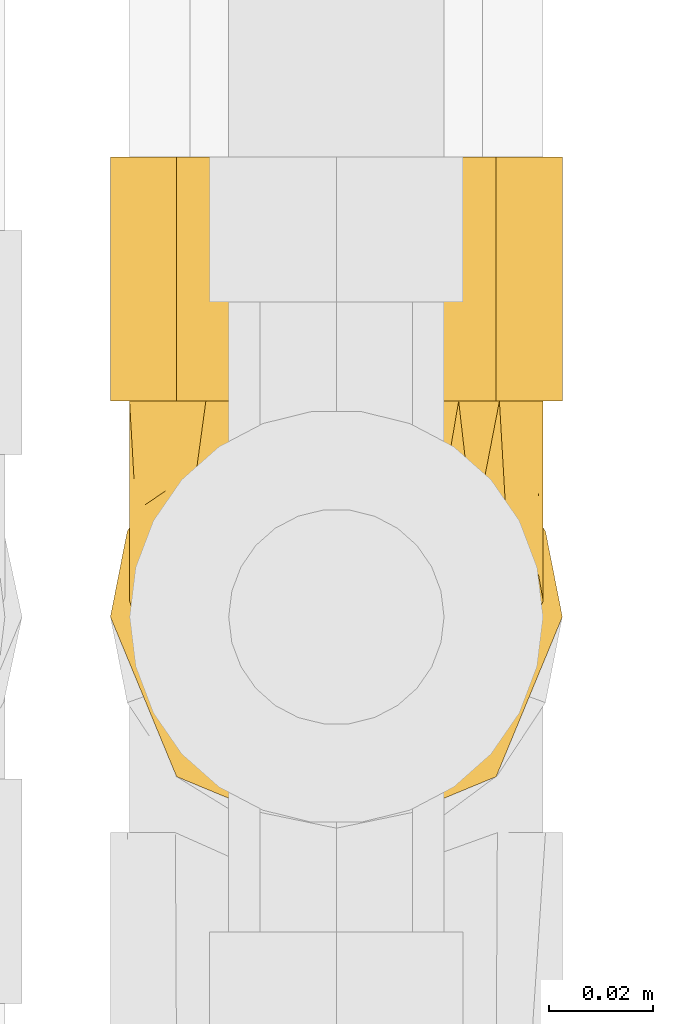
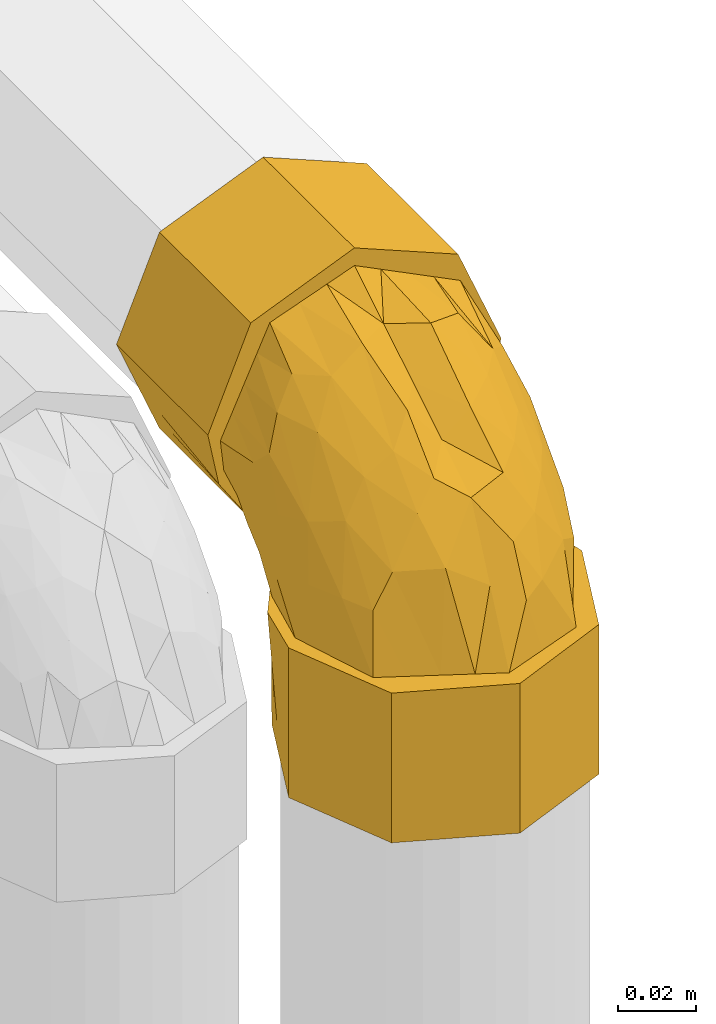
# One storey, part 238 of 652: 1 covering.
"""IFC2X3 building model written with IfcOpenShell, lengths in millimetres."""

from ifc_helpers import new_model, entity, si_unit, converted_unit, direction, frame, origin, place, context, subcontext, project, spatial, faceted_brep, material, type_object, element, save


model = new_model("IFC2X3")

# Units and contexts
model_context = context("Model", 3, precision=0.01, world=frame((0.0, 0.0, 308426.39999999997)), true_north=direction((6.123233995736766e-17, 1.0)))
plan_context = context("Plan", 3, precision=0.01, world=frame((0.0, 0.0, 308426.39999999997)), true_north=direction((6.123233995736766e-17, 1.0)))
body_context = subcontext(model_context, "Body", "Model", "MODEL_VIEW")
ifc_project = project(units=[si_unit("LENGTHUNIT", "METRE", prefix="MILLI"), si_unit("AREAUNIT", "SQUARE_METRE"), si_unit("VOLUMEUNIT", "CUBIC_METRE"), converted_unit("PLANEANGLEUNIT", "DEGREE", entity("IfcPlaneAngleMeasure", 0.017453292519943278), si_unit("PLANEANGLEUNIT", "RADIAN"), dimensions=[0, 0, 0, 0, 0, 0, 0])], contexts=[model_context, plan_context])

# Site, building, storey
site_placement = place(None, origin())
site = spatial("IfcSite", under=ifc_project, at=site_placement, Name="Default", CompositionType="ELEMENT")
building_placement = place(site_placement, origin())
building = spatial("IfcBuilding", under=site, at=building_placement, CompositionType="ELEMENT")
storey_placement = place(building_placement, frame((0.0, 0.0, 1730.6999999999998)))
storey = spatial("IfcBuildingStorey", under=building, at=storey_placement, Name="EG_Produktion_FFB", CompositionType="ELEMENT", Elevation=1730.6999999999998)

# Covering
ifc_material = material(Name="Dämmung - Armaflex-Schlauch")
covering_type = type_object("IfcCoveringType", Name="Rohrdämmung außen:Armaflex-Schlauch", PredefinedType="INSULATION")
covering_placement = place(storey_placement, frame((76935.09072776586, 51593.11908173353, 3811.882249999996)))
element("IfcCovering", 1, at=covering_placement, inside=storey, type_object=covering_type, material=ifc_material, Name="Rohrdämmung außen:Armaflex-Schlauch", ObjectType="Rohrdämmung außen:Armaflex-Schlauch", PredefinedType="INSULATION", context=body_context, shape_type="Brep", body=[
    faceted_brep([(1.5952722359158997, 86.27477223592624, 88.11775000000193), (3.21402764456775, 86.27477223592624, 79.90225228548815), (4.832783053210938, 86.27477223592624, 71.68675457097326), (9.44499511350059, 86.27477223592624, 64.70149015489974), (14.057207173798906, 86.27477223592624, 57.716225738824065), (10.189917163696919, 86.27477223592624, 66.55955447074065), (6.322627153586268, 86.27477223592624, 75.40288320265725), (5.271772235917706, 86.27477223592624, 85.04966346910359), (8.801210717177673, 86.27477223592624, 92.72698145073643), (12.330649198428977, 86.27477223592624, 100.40429943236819), (16.11426416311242, 86.27477223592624, 108.63450810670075), (19.897879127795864, 86.27477223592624, 116.86471678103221), (28.598847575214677, 86.27477223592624, 120.01964159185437), (36.75405990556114, 86.27477223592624, 122.97667814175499), (44.909272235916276, 86.27477223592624, 125.93371469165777), (52.722214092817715, 86.27477223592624, 122.03577136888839), (60.53515594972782, 86.27477223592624, 118.13782804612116), (68.3480978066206, 86.27477223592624, 114.23988472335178), (76.16103966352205, 86.27477223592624, 110.34194140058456), (79.16192692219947, 86.27477223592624, 101.29094031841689), (81.85434957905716, 86.27477223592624, 93.1703018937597), (84.54677223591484, 86.27477223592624, 85.04966346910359), (83.74827741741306, 86.27477223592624, 81.34938260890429), (82.94978259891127, 86.27477223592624, 77.64910174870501), (81.71182968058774, 86.27477223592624, 71.91234130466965), (80.47387676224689, 86.27477223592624, 66.17558086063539), (75.76133729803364, 86.27477223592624, 57.716225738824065), (80.37354935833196, 86.27477223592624, 64.70149015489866), (84.9857614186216, 86.27477223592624, 71.68675457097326), (86.43872402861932, 86.27477223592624, 79.06082167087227), (88.22327223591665, 86.27477223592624, 88.11775000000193), (84.75898186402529, 86.27477223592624, 96.48128679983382), (81.88008379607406, 86.27477223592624, 103.43156156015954), (78.70848957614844, 86.27477223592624, 111.08846734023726), (75.53689535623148, 86.27477223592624, 118.74537312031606), (67.87998957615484, 86.27477223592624, 121.91696734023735), (60.223083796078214, 86.27477223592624, 125.08856156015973), (53.272807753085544, 86.27477223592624, 127.96746015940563), (44.909272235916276, 86.27477223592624, 131.43175000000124), (36.54573552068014, 86.27477223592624, 127.96745966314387), (29.59546067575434, 86.27477223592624, 125.08856156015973), (21.938554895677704, 86.27477223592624, 121.91696734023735), (14.281649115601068, 86.27477223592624, 118.74537312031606), (11.110054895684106, 86.27477223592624, 111.08846734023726), (7.938460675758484, 86.27477223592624, 103.43156156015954), (5.059562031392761, 86.27477223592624, 96.48128540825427), (44.909272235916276, 133.02702223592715, 131.43175000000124), (52.56617801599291, 133.02702223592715, 128.26015578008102), (60.223083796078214, 133.02702223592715, 125.08856156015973), (67.87998957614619, 133.02702223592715, 121.91696734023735), (75.53689535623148, 133.02702223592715, 118.74537312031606), (78.4157932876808, 133.02702223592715, 111.79509868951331), (81.29469121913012, 133.02702223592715, 104.84482425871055), (84.75898172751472, 133.02702223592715, 96.48128712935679), (88.22327223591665, 133.02702223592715, 88.11775000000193), (85.05167801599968, 133.02702223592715, 80.46084421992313), (81.88008379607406, 133.02702223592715, 72.80393843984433), (78.70848957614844, 133.02702223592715, 65.14703265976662), (75.53689535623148, 133.02702223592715, 57.490126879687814), (67.87998957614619, 133.02702223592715, 54.318532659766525), (60.223083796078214, 133.02702223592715, 51.14693843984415), (52.56617801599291, 133.02702223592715, 47.97534421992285), (44.909272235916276, 133.02702223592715, 44.803750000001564), (36.54573690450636, 133.02702223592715, 48.26803976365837), (29.59546067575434, 133.02702223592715, 51.14693843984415), (21.938554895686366, 133.02702223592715, 54.318532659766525), (14.281649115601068, 133.02702223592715, 57.490126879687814), (11.110054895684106, 133.02702223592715, 65.14703265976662), (7.938460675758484, 133.02702223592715, 72.80393843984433), (4.766866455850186, 133.02702223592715, 80.46084421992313), (1.5952722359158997, 133.02702223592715, 88.11775000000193), (4.766866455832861, 133.02702223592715, 95.77465578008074), (7.938460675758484, 133.02702223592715, 103.43156156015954), (11.110054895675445, 133.02702223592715, 111.08846734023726), (14.281649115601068, 133.02702223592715, 118.74537312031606), (21.938554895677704, 133.02702223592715, 121.91696734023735), (29.59546067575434, 133.02702223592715, 125.08856156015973), (37.25236645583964, 133.02702223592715, 128.26015578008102), (58.75537900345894, 92.39161487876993, 47.07645465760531), (54.574402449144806, 92.723085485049, 46.3901877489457), (44.909272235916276, 93.48934344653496, 44.803750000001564), (67.25835815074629, 89.33319355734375, 52.39634019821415), (34.80170281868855, 92.24819953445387, 47.307090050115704), (24.694133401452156, 91.00705562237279, 49.810430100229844), (19.375670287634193, 88.64091392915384, 53.76332791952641), (1.5952722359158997, 44.90927223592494, 46.75224999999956), (5.059562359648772, 36.54573603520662, 46.75224999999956), (8.523852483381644, 28.1821998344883, 46.75224999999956), (11.402750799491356, 21.231924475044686, 46.75224999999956), (14.281649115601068, 14.28164911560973, 46.75224999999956), (21.938554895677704, 11.11005489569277, 46.75224999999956), (29.59546067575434, 7.938460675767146, 46.75224999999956), (36.545736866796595, 5.059562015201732, 46.75224999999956), (44.909272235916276, 1.5952722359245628, 46.75224999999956), (53.27280874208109, 5.05956248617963, 46.75224999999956), (60.223083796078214, 7.938460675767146, 46.75224999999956), (67.87998957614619, 11.11005489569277, 46.75224999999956), (75.53689535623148, 14.28164911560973, 46.75224999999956), (78.7084895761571, 21.938554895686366, 46.75224999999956), (81.88008379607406, 29.595460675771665, 46.75224999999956), (84.75898225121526, 36.54573637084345, 46.75224999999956), (88.22327223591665, 44.90927223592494, 46.75224999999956), (86.43872569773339, 53.966202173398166, 46.75224999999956), (84.98576835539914, 61.340250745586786, 46.75224999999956), (80.37355282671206, 68.3255236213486, 46.75224999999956), (75.76133729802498, 75.31079649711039, 46.75224999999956), (79.62862730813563, 66.46746776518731, 46.75224999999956), (83.49591731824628, 57.62413903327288, 46.75224999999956), (84.54677223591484, 47.977358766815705, 46.75224999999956), (80.8902455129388, 40.02359543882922, 46.75224999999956), (77.2337187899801, 32.069832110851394, 46.75224999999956), (73.57719206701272, 24.116068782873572, 46.75224999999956), (69.92066534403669, 16.162305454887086, 46.75224999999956), (57.414968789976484, 11.62780649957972, 46.75224999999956), (53.06448504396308, 10.050344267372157, 46.75224999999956), (44.909272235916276, 7.0933075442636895, 46.75224999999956), (37.09633037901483, 10.991250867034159, 46.75224999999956), (29.283388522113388, 14.88919418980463, 46.75224999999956), (21.470446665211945, 18.78713751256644, 46.75224999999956), (13.6575048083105, 22.685080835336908, 46.75224999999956), (9.464638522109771, 35.33121980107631, 46.75224999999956), (5.271772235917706, 47.977358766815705, 46.75224999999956), (6.070267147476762, 51.67764005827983, 46.75224999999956), (6.868762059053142, 55.37792134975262, 46.75224999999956), (8.1067148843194, 61.11468136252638, 46.75224999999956), (9.344667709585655, 66.85144137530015, 46.75224999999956), (14.05720717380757, 75.31079649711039, 46.75224999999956), (9.44499164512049, 68.3255236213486, 46.75224999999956), (4.83277611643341, 61.340250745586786, 46.75224999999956), (3.379818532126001, 53.96620094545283, 46.75224999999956), (44.909272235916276, 88.22327223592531, 0.0), (53.27280758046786, 84.75898246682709, 0.0), (60.223083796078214, 81.88008379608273, 0.0), (67.87998957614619, 78.7084895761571, 0.0), (75.53689535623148, 75.53689535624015, 0.0), (78.70848957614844, 67.87998957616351, 0.0), (81.88008379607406, 60.223083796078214, 0.0), (85.05167801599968, 52.56617801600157, 0.0), (88.22327223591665, 44.90927223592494, 0.0), (85.05167801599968, 37.2523664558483, 0.0), (81.8800837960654, 29.595460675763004, 0.0), (78.70848957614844, 21.93855489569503, 0.0), (75.53689535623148, 14.28164911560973, 0.0), (68.58662082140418, 11.402751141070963, 0.0), (61.636346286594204, 8.523853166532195, 0.0), (53.272809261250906, 5.059562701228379, 0.0), (44.909272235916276, 1.5952722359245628, 0.0), (37.25236645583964, 4.766866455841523, 0.0), (29.59546067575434, 7.938460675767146, 0.0), (21.938554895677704, 11.11005489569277, 0.0), (14.281649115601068, 14.28164911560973, 0.0), (11.110054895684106, 21.938554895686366, 0.0), (7.938460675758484, 29.595460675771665, 0.0), (4.766866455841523, 37.2523664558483, 0.0), (1.5952722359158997, 44.90927223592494, 0.0), (4.766866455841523, 52.56617801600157, 0.0), (7.938460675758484, 60.223083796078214, 0.0), (11.110054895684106, 67.87998957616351, 0.0), (14.281649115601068, 75.53689535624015, 0.0), (21.938554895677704, 78.70848957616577, 0.0), (29.59546067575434, 81.88008379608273, 0.0), (37.25236645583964, 85.05167801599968, 0.0), (44.909272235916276, 88.22327223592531, 39.53767878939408), (55.016841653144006, 85.71993218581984, 40.778822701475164), (65.12441107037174, 83.2165921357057, 42.01996661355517), (70.44287418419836, 79.26369431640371, 44.386108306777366), (31.063165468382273, 85.9505675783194, 40.635407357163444), (35.24414219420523, 86.63683451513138, 40.303936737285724), (22.56018632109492, 80.63068203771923, 43.693828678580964), (81.09318334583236, 59.00702437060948, 88.73429544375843), (80.35462521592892, 40.774519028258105, 71.80233442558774), (83.62783125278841, 53.14689646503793, 72.73171129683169), (77.29128021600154, 66.64652028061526, 101.46918686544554), (64.2599094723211, 51.6331370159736, 106.108585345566), (54.28195365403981, 43.08373948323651, 104.62433945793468), (63.722662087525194, 37.02131540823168, 94.19573320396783), (74.64394109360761, 41.79478775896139, 86.62214195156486), (65.33151838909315, 68.59944207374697, 114.66824963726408), (83.68905092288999, 68.36987412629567, 85.5400076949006), (53.254009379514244, 19.45776370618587, 77.34212049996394), (53.21106991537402, 12.671024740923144, 63.10883867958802), (59.68883166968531, 15.757507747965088, 65.48441634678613), (54.90746421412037, 64.5476075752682, 117.68107501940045), (71.24492500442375, 60.88326927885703, 106.03030708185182), (84.54677223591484, 69.69467833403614, 76.5175092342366), (71.08909930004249, 24.873461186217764, 68.47704441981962), (77.47444134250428, 30.40642606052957, 63.4953426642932), (44.909272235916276, 71.37519469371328, 116.84576107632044), (56.49800005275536, 30.250301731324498, 91.22297922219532), (44.909272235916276, 26.676462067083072, 89.58190023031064), (44.909272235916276, 16.88488480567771, 68.1670751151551), (44.909272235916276, 15.257114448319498, 64.60703401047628), (44.909272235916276, 56.47561715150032, 107.75780746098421), (69.82577363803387, 45.75001504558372, 96.83815184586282), (44.909272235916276, 41.576039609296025, 98.66985384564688), (62.77103932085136, 24.97846845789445, 79.9119665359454), (69.36834535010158, 33.120685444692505, 84.11181017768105), (84.54677223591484, 52.66636649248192, 53.17889625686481), (84.54677223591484, 57.355374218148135, 59.605542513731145), (84.54677223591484, 58.83601855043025, 61.63487961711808), (84.54677223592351, 63.52502627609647, 68.06152587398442), (84.54677223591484, 77.9847252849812, 80.7835863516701), (84.54677223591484, 82.69494815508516, 83.20747781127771), (83.21561390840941, 76.7660788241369, 69.04670125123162), (77.57009588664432, 78.47075535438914, 54.556266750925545), (80.01647633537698, 79.81672477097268, 61.11186851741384), (82.50076779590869, 72.36144172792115, 62.409136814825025), (44.909272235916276, 90.6178628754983, 42.4091593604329), (69.11943588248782, 84.55846897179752, 48.018516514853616), (83.42582518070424, 62.42424199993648, 55.41828837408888), (80.87166183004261, 70.33989982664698, 54.00077362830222), (83.31704110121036, 66.44091790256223, 60.14265850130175), (6.36983714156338, 77.75316620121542, 70.8080866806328), (5.271772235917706, 79.1151240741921, 81.36529215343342), (20.699109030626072, 85.00850621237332, 48.468553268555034), (12.277698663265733, 78.50079160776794, 54.52623050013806), (7.774699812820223, 70.60396120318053, 58.74435758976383), (8.780218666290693, 78.4647266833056, 62.718384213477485), (6.031535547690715, 70.42529171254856, 67.2071630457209), (5.8858975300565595, 65.67912818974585, 63.6041839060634), (5.271772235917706, 50.32186262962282, 49.96557312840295), (5.271772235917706, 52.666366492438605, 53.17889625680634), (5.271772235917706, 57.35537421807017, 59.605542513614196), (5.271772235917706, 63.525026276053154, 68.06152587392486), (6.411600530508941, 63.002623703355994, 56.15572771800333), (5.271772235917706, 69.69467833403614, 76.5175092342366), (5.271772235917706, 58.83601855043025, 61.63487961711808), (17.88358938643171, 71.51170717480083, 110.48953732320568), (12.125086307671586, 69.01116982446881, 102.01509896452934), (16.90165112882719, 56.701226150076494, 101.62783839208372), (6.9647082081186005, 43.98287164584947, 65.19910851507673), (37.456410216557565, 46.3835096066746, 107.69923858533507), (21.961010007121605, 41.55313402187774, 95.05710334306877), (24.76338004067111, 63.249351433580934, 112.39514387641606), (8.181328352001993, 66.35650053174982, 92.18182718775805), (6.1333731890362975, 71.097333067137, 87.21494597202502), (15.727702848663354, 26.304606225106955, 64.7097016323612), (15.418239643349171, 39.69496521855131, 84.69214179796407), (10.995633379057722, 33.853624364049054, 65.71529073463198), (6.282339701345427, 58.273232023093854, 78.62112142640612), (9.351008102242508, 48.64795700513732, 81.21836113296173), (33.31902489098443, 19.562414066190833, 75.8199625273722), (37.185424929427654, 32.22607522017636, 94.93182715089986), (30.50188918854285, 29.054550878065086, 88.21869424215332), (35.010191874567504, 65.09145612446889, 117.95353214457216), (21.40322444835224, 26.02971117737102, 75.03858447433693), (30.26940447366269, 40.905739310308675, 100.58448414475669)], [[[0, 1, 2, 3, 4, 5, 6, 7, 8, 9, 10, 11, 12, 13, 14, 15, 16, 17, 18, 19, 20, 21, 22, 23, 24, 25, 26, 27, 28, 29, 30, 31, 32, 33, 34, 35, 36, 37, 38, 39, 40, 41, 42, 43, 44, 45]], [[46, 47, 48, 49, 50, 51, 52, 53, 54, 55, 56, 57, 58, 59, 60, 61, 62, 63, 64, 65, 66, 67, 68, 69, 70, 71, 72, 73, 74, 75, 76, 77]], [[26, 58, 57]], [[27, 26, 57]], [[61, 78, 79, 80]], [[30, 29, 55]], [[78, 60, 81]], [[29, 56, 55]], [[56, 28, 27]], [[30, 55, 54]], [[56, 27, 57]], [[56, 29, 28]], [[61, 80, 62]], [[58, 81, 60, 59]], [[61, 60, 78]], [[58, 26, 81]], [[31, 30, 54, 53, 52, 51, 50, 34, 33, 32]], [[34, 50, 49, 48, 47, 46, 38, 37, 36, 35]], [[0, 45, 44, 43, 42, 74, 73, 72, 71, 70]], [[76, 75, 74, 42, 41, 40, 39, 38, 46, 77]], [[70, 1, 0]], [[3, 2, 68]], [[82, 64, 63]], [[4, 67, 66]], [[3, 68, 67]], [[65, 83, 84, 4]], [[64, 82, 83]], [[68, 2, 69]], [[1, 70, 69]], [[63, 80, 82]], [[69, 2, 1]], [[67, 4, 3]], [[63, 62, 80]], [[65, 4, 66]], [[65, 64, 83]], [[85, 86, 87, 88, 89, 90, 91, 92, 93, 94, 95, 96, 97, 98, 99, 100, 101, 102, 103, 104, 105, 106, 107, 108, 109, 110, 111, 112, 113, 114, 115, 116, 117, 118, 119, 120, 121, 122, 123, 124, 125, 126, 127, 128, 129]], [[130, 131, 132, 133, 134, 135, 136, 137, 138, 139, 140, 141, 142, 143, 144, 145, 146, 147, 148, 149, 150, 151, 152, 153, 154, 155, 156, 157, 158, 159, 160, 161]], [[144, 143, 142, 97, 96, 95, 94, 93, 146, 145]], [[97, 142, 141, 140, 139, 138, 101, 100, 99, 98]], [[136, 102, 137]], [[105, 135, 134]], [[131, 130, 162]], [[101, 137, 102]], [[104, 136, 135]], [[104, 103, 136]], [[132, 163, 164]], [[163, 132, 131]], [[133, 164, 165, 105]], [[131, 162, 163]], [[101, 138, 137]], [[135, 105, 104]], [[102, 136, 103]], [[133, 105, 134]], [[133, 132, 164]], [[161, 162, 130]], [[85, 129, 155]], [[161, 166, 167, 162]], [[156, 128, 127]], [[166, 160, 168]], [[129, 156, 155]], [[157, 156, 127]], [[85, 155, 154]], [[158, 168, 160, 159]], [[156, 129, 128]], [[161, 160, 166]], [[158, 126, 168]], [[126, 157, 127]], [[126, 158, 157]], [[150, 89, 88, 87, 86, 85, 154, 153, 152, 151]], [[89, 150, 149, 148, 147, 146, 93, 92, 91, 90]], [[169, 170, 171]], [[19, 172, 169]], [[173, 174, 175]], [[176, 170, 169]], [[17, 16, 177]], [[21, 20, 178]], [[179, 180, 181]], [[182, 177, 16]], [[178, 20, 169]], [[19, 18, 172]], [[18, 17, 183]], [[20, 19, 169]], [[184, 178, 171]], [[185, 186, 176]], [[176, 169, 172]], [[176, 172, 183]], [[15, 187, 182]], [[183, 17, 177]], [[186, 111, 110]], [[175, 174, 188]], [[179, 189, 190, 191]], [[182, 173, 177]], [[183, 177, 173]], [[182, 16, 15]], [[173, 182, 174]], [[182, 192, 174]], [[173, 175, 193]], [[183, 172, 18]], [[188, 194, 189]], [[189, 179, 188]], [[185, 195, 181]], [[109, 170, 110]], [[185, 112, 111]], [[170, 186, 110]], [[196, 185, 176]], [[170, 109, 171]], [[171, 108, 197, 198, 199, 200, 184]], [[176, 186, 170]], [[185, 111, 186]], [[179, 181, 195]], [[108, 171, 109]], [[185, 181, 112]], [[181, 180, 113]], [[188, 179, 195]], [[188, 195, 175]], [[174, 194, 188]], [[196, 195, 185]], [[196, 176, 193]], [[115, 114, 113, 180]], [[112, 181, 113]], [[179, 191, 180]], [[115, 180, 191]], [[171, 178, 169]], [[174, 192, 194]], [[178, 184, 201, 202, 21]], [[187, 15, 14]], [[187, 192, 182]], [[193, 176, 183]], [[195, 196, 175]], [[173, 193, 183]], [[175, 196, 193]], [[203, 25, 24]], [[204, 26, 205]], [[206, 205, 203]], [[207, 80, 79]], [[203, 200, 206]], [[208, 165, 164]], [[78, 164, 163]], [[209, 107, 106]], [[204, 205, 206]], [[204, 210, 105]], [[107, 198, 197, 108]], [[210, 204, 206]], [[210, 209, 106]], [[79, 163, 207]], [[163, 79, 78]], [[207, 163, 162]], [[209, 210, 211]], [[198, 209, 211]], [[204, 165, 208]], [[78, 81, 26, 208]], [[105, 210, 106]], [[210, 206, 211]], [[208, 26, 204]], [[107, 209, 198]], [[204, 105, 165]], [[78, 208, 164]], [[26, 25, 205]], [[203, 205, 25]], [[202, 201, 24, 23, 22, 21]], [[200, 203, 184]], [[201, 203, 24]], [[203, 201, 184]], [[206, 200, 211]], [[211, 200, 199, 198]], [[207, 82, 80]], [[212, 213, 6]], [[84, 214, 215]], [[125, 216, 126]], [[7, 6, 213]], [[4, 217, 5]], [[218, 217, 216]], [[216, 217, 215]], [[167, 166, 82]], [[216, 215, 126]], [[166, 83, 82]], [[219, 218, 216]], [[215, 217, 4]], [[84, 83, 214]], [[122, 121, 220, 221, 222, 124, 123]], [[207, 162, 167]], [[218, 219, 223]], [[125, 224, 216]], [[6, 5, 212]], [[167, 82, 207]], [[166, 168, 126, 214]], [[218, 212, 217]], [[215, 4, 84]], [[214, 126, 215]], [[166, 214, 83]], [[223, 225, 218]], [[212, 218, 225]], [[212, 225, 213]], [[217, 212, 5]], [[216, 224, 219]], [[222, 224, 124]], [[219, 222, 226, 223]], [[224, 125, 124]], [[222, 219, 224]], [[227, 228, 229]], [[230, 121, 120]], [[194, 192, 231]], [[232, 233, 229]], [[234, 8, 235]], [[236, 237, 238]], [[9, 228, 10]], [[234, 235, 239]], [[240, 234, 239]], [[119, 236, 238]], [[241, 242, 243]], [[235, 7, 213, 225]], [[227, 11, 10]], [[9, 8, 234]], [[12, 233, 244]], [[227, 233, 11]], [[230, 226, 222, 221, 220, 121]], [[238, 237, 240]], [[241, 117, 116]], [[239, 230, 240]], [[239, 226, 230]], [[240, 230, 238]], [[238, 230, 120]], [[120, 119, 238]], [[118, 245, 236]], [[241, 245, 117]], [[237, 232, 229]], [[245, 243, 232]], [[229, 240, 237]], [[187, 13, 244]], [[233, 12, 11]], [[194, 231, 242]], [[246, 244, 233]], [[244, 192, 187]], [[239, 225, 223, 226]], [[228, 240, 229]], [[9, 234, 228]], [[240, 228, 234]], [[231, 244, 246]], [[194, 242, 189]], [[245, 232, 237]], [[233, 232, 246]], [[228, 227, 10]], [[233, 227, 229]], [[116, 190, 241]], [[190, 189, 241]], [[116, 115, 191, 190]], [[244, 231, 192]], [[231, 246, 242]], [[243, 242, 246]], [[241, 189, 242]], [[232, 243, 246]], [[245, 241, 243]], [[7, 235, 8]], [[225, 239, 235]], [[118, 117, 245]], [[237, 236, 245]], [[236, 119, 118]], [[13, 187, 14]], [[13, 12, 244]]]),
])

save(model, "model.ifc")
